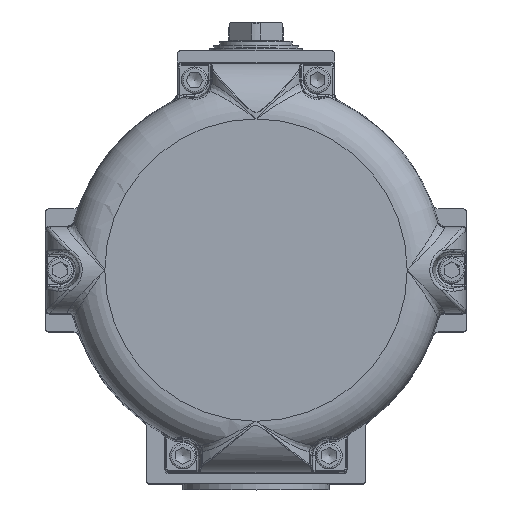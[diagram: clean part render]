
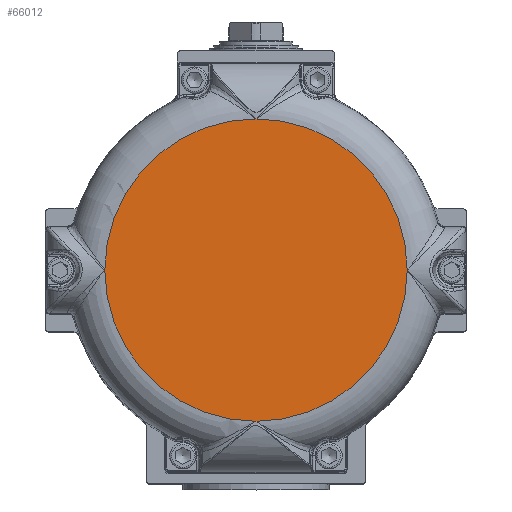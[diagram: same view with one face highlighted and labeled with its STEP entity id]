
A CAD part, top view. The second image highlights one B-rep face of the part: STEP entity #66012.
In plain terms, the highlighted planar face has unit normal (0, 0, 1).
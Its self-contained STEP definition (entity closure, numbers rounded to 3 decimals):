
#2766=PLANE('',#71334);
#6198=FACE_OUTER_BOUND('',#10209,.T.);
#10209=EDGE_LOOP('',(#51621,#51622,#51623,#51624));
#13554=CIRCLE('',#71036,103.409);
#13557=CIRCLE('',#71041,103.409);
#13605=CIRCLE('',#71150,103.409);
#13670=CIRCLE('',#71282,103.409);
#27719=VERTEX_POINT('',#123381);
#27720=VERTEX_POINT('',#123399);
#27732=VERTEX_POINT('',#123903);
#27842=VERTEX_POINT('',#125683);
#35650=EDGE_CURVE('',#27720,#27719,#13554,.T.);
#35667=EDGE_CURVE('',#27732,#27720,#13557,.T.);
#35869=EDGE_CURVE('',#27719,#27842,#13605,.T.);
#36093=EDGE_CURVE('',#27842,#27732,#13670,.T.);
#51621=ORIENTED_EDGE('',*,*,#35650,.T.);
#51622=ORIENTED_EDGE('',*,*,#35869,.T.);
#51623=ORIENTED_EDGE('',*,*,#36093,.T.);
#51624=ORIENTED_EDGE('',*,*,#35667,.T.);
#66012=ADVANCED_FACE('',(#6198),#2766,.T.);
#71036=AXIS2_PLACEMENT_3D('',#123400,#82397,#82398);
#71041=AXIS2_PLACEMENT_3D('',#123904,#82409,#82410);
#71150=AXIS2_PLACEMENT_3D('',#125684,#82709,#82710);
#71282=AXIS2_PLACEMENT_3D('',#128709,#83019,#83020);
#71334=AXIS2_PLACEMENT_3D('',#129979,#83142,#83143);
#82397=DIRECTION('center_axis',(0.,0.,
1.));
#82398=DIRECTION('ref_axis',(-1.,0.,0.));
#82409=DIRECTION('center_axis',(0.,0.,
1.));
#82410=DIRECTION('ref_axis',(-1.,0.,0.));
#82709=DIRECTION('center_axis',(0.,0.,
1.));
#82710=DIRECTION('ref_axis',(-1.,0.,0.));
#83019=DIRECTION('center_axis',(0.,0.,
1.));
#83020=DIRECTION('ref_axis',(-1.,0.,0.));
#83142=DIRECTION('center_axis',(0.,0.,
1.));
#83143=DIRECTION('ref_axis',(0.,-1.,0.));
#123381=CARTESIAN_POINT('',(0.,103.409,186.1));
#123399=CARTESIAN_POINT('',(103.409,0.,186.1));
#123400=CARTESIAN_POINT('Origin',(0.,0.,
186.1));
#123903=CARTESIAN_POINT('',(0.,-103.409,186.1));
#123904=CARTESIAN_POINT('Origin',(0.,0.,
186.1));
#125683=CARTESIAN_POINT('',(-103.409,0.,186.1));
#125684=CARTESIAN_POINT('Origin',(0.,0.,
186.1));
#128709=CARTESIAN_POINT('Origin',(0.,0.,
186.1));
#129979=CARTESIAN_POINT('Origin',(-51.704,0.,
186.1));
